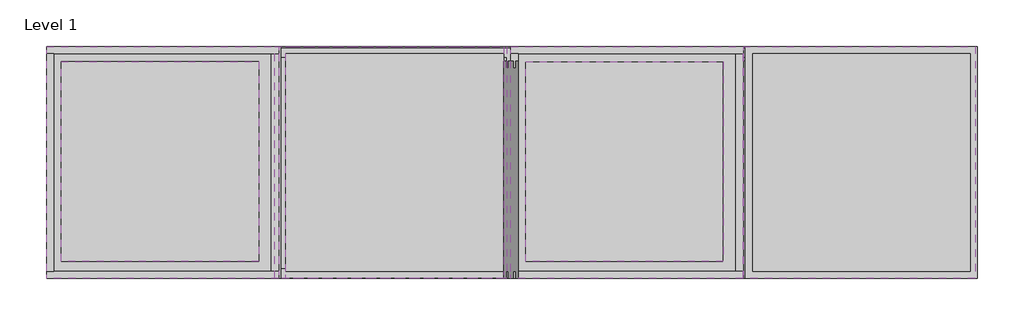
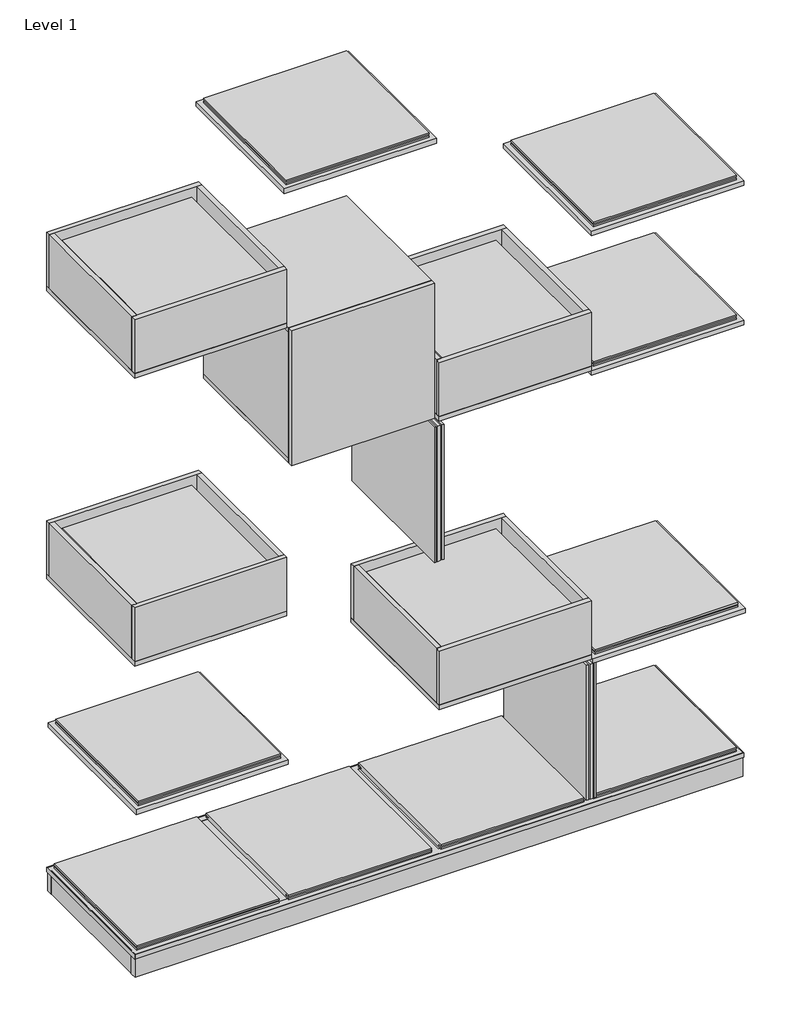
# One storey, incomplete: 14 furniture elements, 4 geographic elements.
"""IFC4 building model written with IfcOpenShell, lengths in millimetres."""

import ifcopenshell
import ifcopenshell.guid

model = None  # the IFC model being written
_history = None  # IfcOwnerHistory: only IFC2X3 demands one
_inside = {}  # id of a spatial element -> (the spatial element, [elements in it])
_under = {}  # id of a project, library or spatial element -> (it, [spatial elements below it])
_declared = {}  # id of a project -> (the project, [libraries it declares])
_typed = {}  # id of a type object -> (the type object, [elements of that type])
_made_of = {}  # id of a material, layer set ... -> (it, [elements and type objects made of it])


def new_model(schema):
    """Start an empty IFC model of exactly this schema.

    Asked for "IFC4X3", IfcOpenShell would pick the latest addendum, in which some entities
    have other attributes; the version numbers below select the first issue.
    IFC2X3 requires an IfcOwnerHistory on every rooted entity: one is made here for all.
    """
    global model, _history
    if schema == "IFC4X3":
        model = ifcopenshell.file(schema_version=(4, 3, 0, 0))
    else:
        model = ifcopenshell.file(schema=schema)
    _inside.clear()
    _under.clear()
    _declared.clear()
    _typed.clear()
    _made_of.clear()
    _history = None
    if model.schema == "IFC2X3":
        org = make("IfcOrganization", Name="unknown")
        user = make(
            "IfcPersonAndOrganization",
            ThePerson=make("IfcPerson", FamilyName="unknown"),
            TheOrganization=org,
        )
        app = make(
            "IfcApplication",
            ApplicationDeveloper=org,
            Version="unknown",
            ApplicationFullName="unknown",
            ApplicationIdentifier="unknown",
        )
        _history = make(
            "IfcOwnerHistory",
            OwningUser=user,
            OwningApplication=app,
            ChangeAction="ADDED",
            CreationDate=0,
        )
    return model


def make(cls, **values):
    """One entity of the class cls with the attributes given. An attribute that is None is left unset."""
    return model.create_entity(
        cls, **{name: value for name, value in values.items() if value is not None}
    )


def rooted(cls, **values):
    """An entity with a GlobalId (a new one), such as an element, a storey or a relation."""
    return make(cls, GlobalId=ifcopenshell.guid.new(), OwnerHistory=_history, **values)


def si_unit(unit_type, name, prefix=None):
    """IfcSIUnit, for example si_unit("LENGTHUNIT", "METRE", prefix="MILLI")."""
    return make("IfcSIUnit", UnitType=unit_type, Prefix=prefix, Name=name)


def assignment(units):
    """IfcUnitAssignment: the units of a project."""
    return None if units is None else make("IfcUnitAssignment", Units=units)


def point(xyz):
    """IfcCartesianPoint."""
    return None if xyz is None else make("IfcCartesianPoint", Coordinates=xyz)


def direction(xyz):
    """IfcDirection."""
    return None if xyz is None else make("IfcDirection", DirectionRatios=xyz)


def frame(location, z_axis=None, x_axis=None):
    """IfcAxis2Placement3D, a coordinate frame: its origin and axes. An axis left out is left unset."""
    return make(
        "IfcAxis2Placement3D",
        Location=point(location),
        Axis=direction(z_axis),
        RefDirection=direction(x_axis),
    )


def origin():
    """The frame at (0, 0, 0) with its axes left unset."""
    return frame((0.0, 0.0, 0.0))


def place(relative_to, where):
    """IfcLocalPlacement: puts the frame where relative to a parent placement (None: the world)."""
    return make(
        "IfcLocalPlacement", PlacementRelTo=relative_to, RelativePlacement=where
    )


def context(
    kind, dimensions, precision=None, world=None, true_north=None, identifier=None
):
    """IfcGeometricRepresentationContext, for example the 3D "Model" context."""
    return make(
        "IfcGeometricRepresentationContext",
        ContextIdentifier=identifier,
        ContextType=kind,
        CoordinateSpaceDimension=dimensions,
        Precision=precision,
        WorldCoordinateSystem=world,
        TrueNorth=true_north,
    )


def project(units=None, contexts=None):
    """IfcProject with its units and contexts."""
    return rooted(
        "IfcProject",
        Name="project",
        RepresentationContexts=contexts,
        UnitsInContext=assignment(units),
    )


def spatial(cls, under=None, at=None, **own):
    """A site, building, storey or space (cls), placed at a placement, below another one or the project."""
    s = rooted(cls, ObjectPlacement=at, **own)
    if under is not None:
        _under.setdefault(under.id(), (under, []))[1].append(s)
    return s


def polyline(points):
    """IfcPolyline through the points."""
    return make("IfcPolyline", Points=[point(p) for p in points])


def outline(outer, holes=None, kind="AREA"):
    """IfcArbitraryClosedProfileDef: a profile drawn as a closed curve; with holes, ...WithVoids."""
    if holes is None:
        return make("IfcArbitraryClosedProfileDef", ProfileType=kind, OuterCurve=outer)
    return make(
        "IfcArbitraryProfileDefWithVoids",
        ProfileType=kind,
        OuterCurve=outer,
        InnerCurves=holes,
    )


def extrude(swept, where, along, depth):
    """IfcExtrudedAreaSolid: the profile swept, set in the frame where, extruded along a direction by depth."""
    return make(
        "IfcExtrudedAreaSolid",
        SweptArea=swept,
        Position=where,
        ExtrudedDirection=direction(along),
        Depth=depth,
    )


def faces_of(points, faces, orient=None, outer=None):
    """IfcFace entities. A face is a list of loops; a loop is a list of indices into points, from 0.

    orient and outer hold one flag for each loop. By default every Orientation is true, the
    first loop of a face is its IfcFaceOuterBound and the others are IfcFaceBound.
    """
    made = []
    for i, loops in enumerate(faces):
        bounds = []
        for j, loop in enumerate(loops):
            is_outer = j == 0 if outer is None else outer[i][j]
            bounds.append(
                make(
                    "IfcFaceOuterBound" if is_outer else "IfcFaceBound",
                    Bound=make("IfcPolyLoop", Polygon=[points[k] for k in loop]),
                    Orientation=True if orient is None else orient[i][j],
                )
            )
        made.append(make("IfcFace", Bounds=bounds))
    return made


def faceted_brep(points, faces, orient=None, outer=None, voids=None):
    """IfcFacetedBrep: a solid bounded by flat faces; with voids (closed shells), ...WithVoids."""
    shared = [point(p) for p in points]
    hull = make("IfcClosedShell", CfsFaces=faces_of(shared, faces, orient, outer))
    if voids is None:
        return make("IfcFacetedBrep", Outer=hull)
    return make(
        "IfcFacetedBrepWithVoids",
        Outer=hull,
        Voids=[
            make(cls, CfsFaces=faces_of(shared, fs, o, b)) for cls, fs, o, b in voids
        ],
    )


def shape(context_of_items, identifier, shape_type, items):
    """IfcShapeRepresentation: the items that make up one representation, for example the "Body"."""
    return make(
        "IfcShapeRepresentation",
        ContextOfItems=context_of_items,
        RepresentationIdentifier=identifier,
        RepresentationType=shape_type,
        Items=items,
    )


def source(mapping_origin, context_of_items, identifier, shape_type, items):
    """IfcRepresentationMap: a shape defined once, which mapped items show again and again."""
    return make(
        "IfcRepresentationMap",
        MappingOrigin=mapping_origin,
        MappedRepresentation=shape(context_of_items, identifier, shape_type, items),
    )


def transform(
    local_origin,
    x_axis=None,
    y_axis=None,
    z_axis=None,
    scale=None,
    scale2=None,
    scale3=None,
    uniform=True,
):
    """IfcCartesianTransformationOperator3D, or its non-uniform kind. x_axis, y_axis, z_axis: its Axis1, 2, 3."""
    if uniform:
        return make(
            "IfcCartesianTransformationOperator3D",
            Axis1=direction(x_axis),
            Axis2=direction(y_axis),
            LocalOrigin=point(local_origin),
            Scale=scale,
            Axis3=direction(z_axis),
        )
    return make(
        "IfcCartesianTransformationOperator3DnonUniform",
        Axis1=direction(x_axis),
        Axis2=direction(y_axis),
        LocalOrigin=point(local_origin),
        Scale=scale,
        Axis3=direction(z_axis),
        Scale2=scale2,
        Scale3=scale3,
    )


def mapped(mapping_source, mapping_target):
    """IfcMappedItem: shows the shape of a source again, moved by a transform."""
    return make(
        "IfcMappedItem", MappingSource=mapping_source, MappingTarget=mapping_target
    )


def made_of(thing, what):
    """Note that an element or type object is made of a material, layer set ...; save() writes the relation."""
    if what is not None:
        _made_of.setdefault(what.id(), (what, []))[1].append(thing)
    return thing


def element(
    cls,
    number,
    at=None,
    inside=None,
    cuts=None,
    type_object=None,
    material=None,
    context=None,
    identifier="Body",
    shape_type=None,
    held_by="IfcProductDefinitionShape",
    body=None,
    shapes=None,
    **own,
):
    """One element of the class cls, such as IfcWall. Its Tag is "e" and its number.

    at: its placement. inside: the storey or other place that contains it. cuts: it is an
    opening in that element (IfcRelVoidsElement). A single representation is given by context,
    identifier, shape_type and body (its items); several are given by shapes. held_by: the class
    of the entity that holds the representations. save() writes the other relations.
    """
    e = rooted(cls, Tag="e%d" % number, ObjectPlacement=at, **own)
    if body is not None:
        shapes = [shape(context, identifier, shape_type, body)]
    if shapes is not None:
        e.Representation = make(held_by, Representations=shapes)
    if inside is not None:
        _inside.setdefault(inside.id(), (inside, []))[1].append(e)
    if cuts is not None:
        rooted(
            "IfcRelVoidsElement", RelatingBuildingElement=cuts, RelatedOpeningElement=e
        )
    if type_object is not None:
        _typed.setdefault(type_object.id(), (type_object, []))[1].append(e)
    return made_of(e, material)


def aggregate(whole, parts):
    """IfcRelAggregates: a whole, such as a stair, and the parts it consists of."""
    return rooted("IfcRelAggregates", RelatingObject=whole, RelatedObjects=parts)


def save(model, path):
    """Write the relations noted so far, then the file.

    IfcRelAggregates (storeys below a building ...), IfcRelContainedInSpatialStructure (elements
    in a storey), IfcRelDefinesByType, IfcRelAssociatesMaterial and IfcRelDeclares: one each for
    every whole, place, type object, material and project.
    """
    for whole, parts in _under.values():
        aggregate(whole, parts)
    for where, things in _inside.values():
        rooted(
            "IfcRelContainedInSpatialStructure",
            RelatedElements=things,
            RelatingStructure=where,
        )
    for kind, things in _typed.values():
        rooted("IfcRelDefinesByType", RelatedObjects=things, RelatingType=kind)
    for what, things in _made_of.values():
        rooted("IfcRelAssociatesMaterial", RelatedObjects=things, RelatingMaterial=what)
    for by, libraries in _declared.values():
        rooted("IfcRelDeclares", RelatingContext=by, RelatedDefinitions=libraries)
    model.write(path)


def furniture_shelving_storage_grid_cupboard_insert_side_left_8271136d(model_context):
    return source(origin(), model_context, "Body", "SweptSolid", [
        extrude(outline(polyline([(188.0003625, -185.4994641), (-187.9996375, -185.4994641), (-187.9996375, 203.0005359), (188.0003625, 203.0005359), (188.0003625, -185.4994641)])), frame((0.0, 0.0, 375.9997903), z_axis=(0.0, 0.0, 1.0), x_axis=(1.0, 0.0, 0.0)), (0.0, 0.0, 1.0), 12.5),
        extrude(outline(polyline([(-187.9996375, -185.4994641), (-187.9996375, 203.0005359), (-175.4996375, 203.0005359), (-175.4996375, -185.4994641), (-187.9996375, -185.4994641)])), frame((0.0, 0.0, 24.9997903), z_axis=(0.0, 0.0, 1.0), x_axis=(1.0, 0.0, 0.0)), (0.0, 0.0, 1.0), 351.0),
        extrude(outline(polyline([(175.5003625, -185.4994641), (175.5003625, 203.0005359), (188.0003625, 203.0005359), (188.0003625, -185.4994641), (175.5003625, -185.4994641)])), frame((0.0, 0.0, 24.9997903), z_axis=(0.0, 0.0, 1.0), x_axis=(1.0, 0.0, 0.0)), (0.0, 0.0, 1.0), 351.0),
        extrude(outline(polyline([(188.0003625, 203.0005359), (-187.9996375, 203.0005359), (-187.9996375, 215.5005359), (188.0003625, 215.5005359), (188.0003625, 203.0005359)])), frame((0.0, 0.0, 12.4997903), z_axis=(0.0, 0.0, 1.0), x_axis=(1.0, 0.0, 0.0)), (0.0, 0.0, 1.0), 376.0),
        extrude(outline(polyline([(188.0003625, -185.4994641), (-187.9996375, -185.4994641), (-187.9996375, 203.0005359), (188.0003625, 203.0005359), (188.0003625, -185.4994641)])), frame((0.0, 0.0, 12.4997903), z_axis=(0.0, 0.0, 1.0), x_axis=(1.0, 0.0, 0.0)), (0.0, 0.0, 1.0), 12.5),
    ])


def furniture_shelving_storage_grid_double_side_colour_black_ral_d8258e37(model_context):
    return source(origin(), model_context, "Body", "Brep", [
        faceted_brep([(8.2495759, -175.9999642, 24.5), (4.2495759, -175.9999642, 24.5), (4.2495759, 176.0000358, 24.5), (8.2495759, 176.0000358, 24.5), (4.2495759, -187.9999642, 12.5), (4.2495759, 188.0000358, 12.5), (4.2495759, 188.0000358, 388.5), (4.2495759, -187.9999642, 388.5), (4.2495759, -175.9999642, 376.5), (4.2495759, 176.0000358, 376.5), (8.2495759, 188.0000358, 12.5), (12.4995759, 188.0000358, 12.5), (12.4995759, -187.9999642, 12.5), (8.2495759, -187.9999642, 12.5), (8.2495759, -175.9999642, 376.5), (8.2495759, 176.0000358, 376.5), (12.4995759, -187.9999642, 388.5), (8.2495759, -187.9999642, 388.5), (12.4995759, 188.0000358, 388.5), (8.2495759, 188.0000358, 388.5), (-4.2504241, -175.9999642, 24.5), (-8.2504241, -175.9999642, 24.5), (-8.2504241, 176.0000358, 24.5), (-4.2504241, 176.0000358, 24.5), (-8.2504241, -187.9999642, 12.5), (-8.2504241, 188.0000358, 12.5), (-8.2504241, 188.0000358, 388.5), (-8.2504241, -187.9999642, 388.5), (-8.2504241, -175.9999642, 376.5), (-8.2504241, 176.0000358, 376.5), (-4.2504241, 188.0000358, 12.5), (-4.2504241, -187.9999642, 12.5), (-4.2504241, -175.9999642, 376.5), (-4.2504241, 176.0000358, 376.5), (-4.2504241, -187.9999642, 388.5), (-4.2504241, 188.0000358, 388.5), (-12.5004241, -187.9999642, 12.5), (-12.5004241, 188.0000358, 12.5), (-12.5004241, -187.9999642, 388.5), (-12.5004241, 188.0000358, 388.5)], [[[0, 1, 2, 3]], [[4, 5, 6, 7], [8, 9, 2, 1]], [[10, 11, 12, 13]], [[1, 0, 14, 8]], [[8, 14, 15, 9]], [[13, 12, 16, 17]], [[3, 2, 9, 15]], [[17, 16, 18, 19]], [[10, 13, 17, 19], [14, 0, 3, 15]], [[19, 18, 11, 10]], [[16, 12, 11, 18]], [[20, 21, 22, 23]], [[24, 25, 26, 27], [28, 29, 22, 21]], [[30, 5, 4, 31]], [[21, 20, 32, 28]], [[28, 32, 33, 29]], [[31, 4, 7, 34]], [[23, 22, 29, 33]], [[34, 7, 6, 35]], [[30, 31, 34, 35], [32, 20, 23, 33]], [[24, 36, 37, 25]], [[35, 6, 5, 30]], [[38, 39, 37, 36]], [[25, 37, 39, 26]], [[27, 38, 36, 24]], [[26, 39, 38, 27]]]),
    ])


def furniture_shelving_storage_grid_plinth_type_1x4_colour_black_6eff8f26(model_context):
    return source(origin(), model_context, "Body", "SweptSolid", [
        extrude(outline(polyline([(-197.4999086, -182.4999649), (-197.4999086, 182.5000351), (-198.4999086, 182.5000351), (-198.4999086, 198.5000351), (1401.5000914, 198.5000351), (1401.5000914, 182.5000351), (1400.5000914, 182.5000351), (1400.5000914, -182.4999649), (1401.5000914, -182.4999649), (1401.5000914, -198.4999649), (-198.4999086, -198.4999649), (-198.4999086, -182.4999649), (-197.4999086, -182.4999649)]), holes=[polyline([(593.5000914, -182.4999649), (593.5000914, 182.5000351), (-181.4999086, 182.5000351), (-181.4999086, -182.4999649), (593.5000914, -182.4999649)]), polyline([(609.5000914, -182.4999649), (1384.5000914, -182.4999649), (1384.5000914, 182.5000351), (609.5000914, 182.5000351), (609.5000914, -182.4999649)])]), frame((0.0, 0.0, -65.0), z_axis=(0.0, 0.0, 1.0), x_axis=(1.0, 0.0, 0.0)), (0.0, 0.0, 1.0), 65.0),
    ])


def furniture_shelving_storage_grid_top_base_panel_size_and_cf4f366d(model_context):
    return source(origin(), model_context, "Body", "Brep", [
        faceted_brep([(200.499622, -200.4995459, 13.0), (200.499622, 200.5004541, 13.0), (-200.500378, 200.5004541, 13.0), (-200.500378, -200.4995459, 13.0), (187.999622, -187.9995459, 13.0), (-188.000378, -187.9995459, 13.0), (-188.000378, 188.0004541, 13.0), (187.999622, 188.0004541, 13.0), (200.499622, -200.4995459, 0.0), (-200.500378, -200.4995459, 0.0), (-200.500378, 200.5004541, 0.0), (200.499622, 200.5004541, 0.0), (-176.000378, -175.9995459, 17.25), (-176.000378, -175.9995459, 21.25), (-176.000378, 176.0004541, 21.25), (-176.000378, 176.0004541, 17.25), (-188.000378, -187.9995459, 21.25), (-188.000378, 188.0004541, 21.25), (187.999622, 188.0004541, 21.25), (187.999622, -187.9995459, 21.25), (175.999622, -175.9995459, 21.25), (175.999622, 176.0004541, 21.25), (-188.000378, 188.0004541, 17.25), (-188.000378, -187.9995459, 17.25), (175.999622, -175.9995459, 17.25), (175.999622, 176.0004541, 17.25), (187.999622, -187.9995459, 17.25), (187.999622, 188.0004541, 17.25), (-188.000378, -187.9995459, 25.5), (-188.000378, 188.0004541, 25.5), (187.999622, -187.9995459, 25.5), (187.999622, 188.0004541, 25.5)], [[[0, 1, 2, 3], [4, 5, 6, 7]], [[8, 9, 10, 11]], [[9, 8, 0, 3]], [[10, 9, 3, 2]], [[11, 10, 2, 1]], [[8, 11, 1, 0]], [[12, 13, 14, 15]], [[16, 17, 18, 19], [20, 21, 14, 13]], [[22, 6, 5, 23]], [[13, 12, 24, 20]], [[20, 24, 25, 21]], [[23, 5, 4, 26]], [[15, 14, 21, 25]], [[26, 4, 7, 27]], [[22, 23, 26, 27], [24, 12, 15, 25]], [[16, 28, 29, 17]], [[27, 7, 6, 22]], [[30, 31, 29, 28]], [[17, 29, 31, 18]], [[19, 30, 28, 16]], [[18, 31, 30, 19]]]),
    ])


def furniture_shelving_storage_grid_top_base_panel_size_and_bb9ed435(model_context):
    return source(origin(), model_context, "Body", "Brep", [
        faceted_brep([(212.999622, 176.0004541, 17.25), (588.999622, 176.0004541, 17.25), (588.999622, 188.0004541, 17.25), (212.999622, 188.0004541, 17.25), (212.999622, 176.0004541, 21.25), (212.999622, 188.0004541, 21.25), (588.999622, 188.0004541, 21.25), (588.999622, 176.0004541, 21.25), (613.999622, 176.0004541, 21.25), (613.999622, 188.0004541, 21.25), (989.999622, 188.0004541, 21.25), (989.999622, 176.0004541, 21.25), (989.999622, -175.9995459, 21.25), (989.999622, -187.9995459, 21.25), (613.999622, -187.9995459, 21.25), (613.999622, -175.9995459, 21.25), (613.999622, 176.0004541, 17.25), (989.999622, 176.0004541, 17.25), (989.999622, 188.0004541, 17.25), (613.999622, 188.0004541, 17.25), (989.999622, -175.9995459, 17.25), (613.999622, -175.9995459, 17.25), (613.999622, -187.9995459, 17.25), (989.999622, -187.9995459, 17.25), (588.999622, -175.9995459, 17.25), (212.999622, -175.9995459, 17.25), (212.999622, -187.9995459, 17.25), (588.999622, -187.9995459, 17.25), (588.999622, -175.9995459, 21.25), (588.999622, -187.9995459, 21.25), (212.999622, -187.9995459, 21.25), (212.999622, -175.9995459, 21.25), (1378.999622, -175.9995459, 21.25), (1378.999622, 176.0004541, 21.25), (1014.999622, 176.0004541, 21.25), (1014.999622, 188.0004541, 21.25), (1390.999622, 188.0004541, 21.25), (1390.999622, -187.9995459, 21.25), (1014.999622, -187.9995459, 21.25), (1014.999622, -175.9995459, 21.25), (1378.999622, -175.9995459, 17.25), (1014.999622, -175.9995459, 17.25), (1014.999622, -187.9995459, 17.25), (1390.999622, -187.9995459, 17.25), (1390.999622, 188.0004541, 17.25), (1014.999622, 188.0004541, 17.25), (1014.999622, 176.0004541, 17.25), (1378.999622, 176.0004541, 17.25), (1403.499622, 200.5004541, 13.0), (1403.499622, -200.4995459, 13.0), (1403.499622, -200.4995459, 0.0), (1403.499622, 200.5004541, 0.0), (1390.999622, -187.9995459, 13.0), (1390.999622, 188.0004541, 13.0), (1390.999622, 188.0004541, 25.5), (1390.999622, -187.9995459, 25.5), (1014.999622, -187.9995459, 13.0), (1014.999622, -187.9995459, 25.5), (1014.999622, 188.0004541, 13.0), (1014.999622, 188.0004541, 25.5), (989.999622, 188.0004541, 25.5), (989.999622, -187.9995459, 25.5), (989.999622, -187.9995459, 13.0), (989.999622, 188.0004541, 13.0), (613.999622, -187.9995459, 13.0), (613.999622, -187.9995459, 25.5), (613.999622, 188.0004541, 13.0), (613.999622, 188.0004541, 25.5), (212.999622, -187.9995459, 25.5), (212.999622, 188.0004541, 25.5), (212.999622, 188.0004541, 13.0), (212.999622, -187.9995459, 13.0), (588.999622, -187.9995459, 13.0), (588.999622, 188.0004541, 25.5), (588.999622, -187.9995459, 25.5), (588.999622, 188.0004541, 13.0), (187.999622, -175.9995459, 17.25), (-176.000378, -175.9995459, 17.25), (-176.000378, 176.0004541, 17.25), (187.999622, 176.0004541, 17.25), (187.999622, 188.0004541, 17.25), (-188.000378, 188.0004541, 17.25), (-188.000378, -187.9995459, 17.25), (187.999622, -187.9995459, 17.25), (187.999622, -175.9995459, 21.25), (187.999622, -187.9995459, 21.25), (-188.000378, -187.9995459, 21.25), (-188.000378, 188.0004541, 21.25), (187.999622, 188.0004541, 21.25), (187.999622, 176.0004541, 21.25), (-176.000378, 176.0004541, 21.25), (-176.000378, -175.9995459, 21.25), (-200.500378, 200.5004541, 13.0), (-200.500378, -200.4995459, 13.0), (187.999622, -187.9995459, 13.0), (-188.000378, -187.9995459, 13.0), (-188.000378, 188.0004541, 13.0), (187.999622, 188.0004541, 13.0), (-200.500378, -200.4995459, 0.0), (-200.500378, 200.5004541, 0.0), (187.999622, 188.0004541, 25.5), (187.999622, -187.9995459, 25.5), (-188.000378, -187.9995459, 25.5), (-188.000378, 188.0004541, 25.5)], [[[0, 1, 2, 3]], [[4, 5, 6, 7]], [[8, 9, 10, 11]], [[12, 13, 14, 15]], [[16, 17, 18, 19]], [[20, 21, 22, 23]], [[24, 25, 26, 27]], [[28, 29, 30, 31]], [[32, 33, 34, 35, 36, 37, 38, 39]], [[40, 41, 42, 43, 44, 45, 46, 47]], [[48, 49, 50, 51]], [[32, 40, 47, 33]], [[33, 47, 46, 34]], [[43, 52, 53, 44]], [[36, 54, 55, 37]], [[40, 32, 39, 41]], [[42, 56, 52, 43]], [[37, 55, 57, 38]], [[34, 46, 45, 58, 56, 42, 41, 39, 38, 57, 59, 35]], [[44, 53, 58, 45]], [[59, 57, 55, 54]], [[35, 59, 54, 36]], [[17, 16, 8, 11]], [[17, 11, 10, 60, 61, 13, 12, 20, 23, 62, 63, 18]], [[12, 15, 21, 20]], [[22, 64, 62, 23]], [[13, 61, 65, 14]], [[8, 16, 19, 66, 64, 22, 21, 15, 14, 65, 67, 9]], [[18, 63, 66, 19]], [[67, 65, 61, 60]], [[9, 67, 60, 10]], [[25, 31, 30, 68, 69, 5, 4, 0, 3, 70, 71, 26]], [[25, 24, 28, 31]], [[26, 71, 72, 27]], [[4, 7, 1, 0]], [[1, 7, 6, 73, 74, 29, 28, 24, 27, 72, 75, 2]], [[2, 75, 70, 3]], [[74, 73, 69, 68]], [[5, 69, 73, 6]], [[29, 74, 68, 30]], [[76, 77, 78, 79, 80, 81, 82, 83]], [[84, 85, 86, 87, 88, 89, 90, 91]], [[49, 48, 92, 93], [53, 52, 56, 58], [66, 63, 62, 64], [72, 71, 70, 75], [94, 95, 96, 97]], [[98, 99, 51, 50]], [[98, 50, 49, 93]], [[99, 98, 93, 92]], [[99, 92, 48, 51]], [[77, 91, 90, 78]], [[81, 96, 95, 82]], [[91, 77, 76, 84]], [[82, 95, 94, 83]], [[78, 90, 89, 79]], [[79, 89, 88, 100, 101, 85, 84, 76, 83, 94, 97, 80]], [[86, 102, 103, 87]], [[80, 97, 96, 81]], [[101, 100, 103, 102]], [[87, 103, 100, 88]], [[85, 101, 102, 86]]]),
    ])


def furniture_shelving_storage_grid_top_box_colour_oak_e10ae7cb(model_context):
    return source(origin(), model_context, "Body", "SweptSolid", [
        extrude(outline(polyline([(200.5052314, -200.4947686), (-200.4947686, -200.4947686), (-200.4947686, 200.5052314), (200.5052314, 200.5052314), (200.5052314, -200.4947686)])), frame((0.0, 0.0, 401.0), z_axis=(0.0, 0.0, 1.0), x_axis=(1.0, 0.0, 0.0)), (0.0, 0.0, 1.0), 12.5),
        extrude(outline(polyline([(-200.4947686, -187.9947686), (-200.4947686, 188.0052314), (-187.9947686, 188.0052314), (-187.9947686, -187.9947686), (-200.4947686, -187.9947686)])), frame((0.0, 0.0, 413.5), z_axis=(0.0, 0.0, 1.0), x_axis=(1.0, 0.0, 0.0)), (0.0, 0.0, 1.0), 150.0),
        extrude(outline(polyline([(-200.4947686, 188.0052314), (-200.4947686, 200.5052314), (200.5052314, 200.5052314), (200.5052314, 188.0052314), (-200.4947686, 188.0052314)])), frame((0.0, 0.0, 413.5), z_axis=(0.0, 0.0, 1.0), x_axis=(1.0, 0.0, 0.0)), (0.0, 0.0, 1.0), 150.0),
        extrude(outline(polyline([(200.5052314, -187.9947686), (200.5052314, -200.4947686), (-200.4947686, -200.4947686), (-200.4947686, -187.9947686), (200.5052314, -187.9947686)])), frame((0.0, 0.0, 413.5), z_axis=(0.0, 0.0, 1.0), x_axis=(1.0, 0.0, 0.0)), (0.0, 0.0, 1.0), 150.0),
        extrude(outline(polyline([(188.0052314, -187.9947686), (188.0052314, 188.0052314), (200.5052314, 188.0052314), (200.5052314, -187.9947686), (188.0052314, -187.9947686)])), frame((0.0, 0.0, 413.5), z_axis=(0.0, 0.0, 1.0), x_axis=(1.0, 0.0, 0.0)), (0.0, 0.0, 1.0), 150.0),
    ])


def only_plant_only_plant_8fcf59e9(model_context):
    return source(origin(), model_context, "Body", "SweptSolid", [
        extrude(outline(polyline([(176.0, 177.9567899), (176.0, -167.0432101), (-164.9599787, -167.0432101), (-164.9599787, 177.9567899), (176.0, 177.9567899)])), frame((0.0, 0.0, 55.75), z_axis=(0.0, 0.0, 1.0), x_axis=(1.0, 0.0, 0.0)), (0.0, 0.0, 1.0), 92.0653484),
    ])


model = new_model("IFC4")

# Units and contexts
model_context = context("Model", 3, world=origin())
ifc_project = project(units=[si_unit("LENGTHUNIT", "METRE", prefix="MILLI")], contexts=[model_context])

# Site, building, storey
site = spatial("IfcSite", under=ifc_project)
building = spatial("IfcBuilding", under=site)
storey = spatial("IfcBuildingStorey", under=building, Name="Level 1", Elevation=0.0)

# Furniture
placement = place(None, origin())
furniture_shelving_storage_grid_cupboard_insert_side_left_shape = furniture_shelving_storage_grid_cupboard_insert_side_left_8271136d(model_context)
element("IfcFurniture", 1, ObjectType="Furniture_Shelving-Storage_Grid_Cupboard-insert : Side - (Left) Colour - (White RAL 9016) 2", at=placement, inside=storey, context=model_context, shape_type="MappedRepresentation", body=[
    mapped(furniture_shelving_storage_grid_cupboard_insert_side_left_shape, transform((738.9220252, 215.5005361, 1281.0094794), x_axis=(-1.0, 0.0, 0.0), y_axis=(0.0, -1.0, 0.0), z_axis=(0.0, 0.0, 1.0))),
])
furniture_shelving_storage_grid_double_side_colour_black_ral_shape = furniture_shelving_storage_grid_double_side_colour_black_ral_d8258e37(model_context)
element("IfcFurniture", 2, ObjectType="Furniture_Shelving-Storage_Grid_Double-Side : Colour - (Black RAL 9011)", at=placement, inside=storey, context=model_context, shape_type="MappedRepresentation", body=[
    mapped(furniture_shelving_storage_grid_double_side_colour_black_ral_shape, transform((1340.4224237, 187.9998998, 77.8092697), x_axis=(1.0, 0.0, 0.0), y_axis=(0.0, 1.0, 0.0), z_axis=(0.0, 0.0, 1.0))),
])
element("IfcFurniture", 3, ObjectType="Furniture_Shelving-Storage_Grid_Double-Side : Colour - (Black RAL 9011)", at=placement, inside=storey, context=model_context, shape_type="MappedRepresentation", body=[
    mapped(furniture_shelving_storage_grid_double_side_colour_black_ral_shape, transform((939.4224237, 187.9998998, 879.8092697), x_axis=(1.0, 0.0, 0.0), y_axis=(0.0, 1.0, 0.0), z_axis=(0.0, 0.0, 1.0))),
])
furniture_shelving_storage_grid_plinth_type_1x4_colour_black_shape = furniture_shelving_storage_grid_plinth_type_1x4_colour_black_6eff8f26(model_context)
element("IfcFurniture", 4, ObjectType="Furniture_Shelving-Storage_Grid_Plinth : Type - (1x4) Colour - (Black RAL 9011)", at=placement, inside=storey, context=model_context, shape_type="MappedRepresentation", body=[
    mapped(furniture_shelving_storage_grid_plinth_type_1x4_colour_black_shape, transform((337.9218447, 199.7750002, 78.0092697), x_axis=(1.0, 0.0, 0.0), y_axis=(0.0, 1.0, 0.0), z_axis=(0.0, 0.0, 1.0))),
])
furniture_shelving_storage_grid_top_base_panel_size_and_shape = furniture_shelving_storage_grid_top_base_panel_size_and_cf4f366d(model_context)
element("IfcFurniture", 5, ObjectType="Furniture_Shelving-Storage_Grid_Top-Base-Panel : Size and color - (1x1 Black RAL 9011)", at=placement, inside=storey, context=model_context, shape_type="MappedRepresentation", body=[
    mapped(furniture_shelving_storage_grid_top_base_panel_size_and_shape, transform((1540.9224032, 200.4995461, 1268.5092697), x_axis=(1.0, 0.0, 0.0), y_axis=(0.0, 1.0, 0.0), z_axis=(0.0, 0.0, 1.0))),
])
element("IfcFurniture", 6, ObjectType="Furniture_Shelving-Storage_Grid_Top-Base-Panel : Size and color - (1x1 Black RAL 9011)", at=placement, inside=storey, context=model_context, shape_type="MappedRepresentation", body=[
    mapped(furniture_shelving_storage_grid_top_base_panel_size_and_shape, transform((1540.9224032, 200.4995461, 1656.5092697), x_axis=(1.0, 0.0, 0.0), y_axis=(0.0, 1.0, 0.0), z_axis=(0.0, 0.0, 1.0))),
])
element("IfcFurniture", 7, ObjectType="Furniture_Shelving-Storage_Grid_Top-Base-Panel : Size and color - (1x1 Black RAL 9011)", at=placement, inside=storey, context=model_context, shape_type="MappedRepresentation", body=[
    mapped(furniture_shelving_storage_grid_top_base_panel_size_and_shape, transform((1544.8911276, 200.4995461, 466.0092697), x_axis=(1.0, 0.0, 0.0), y_axis=(0.0, 1.0, 0.0), z_axis=(0.0, 0.0, 1.0))),
])
element("IfcFurniture", 8, ObjectType="Furniture_Shelving-Storage_Grid_Top-Base-Panel : Size and color - (1x1 Black RAL 9011)", at=placement, inside=storey, context=model_context, shape_type="MappedRepresentation", body=[
    mapped(furniture_shelving_storage_grid_top_base_panel_size_and_shape, transform((341.8911276, 200.4995461, 466.0092697), x_axis=(1.0, 0.0, 0.0), y_axis=(0.0, 1.0, 0.0), z_axis=(0.0, 0.0, 1.0))),
])
element("IfcFurniture", 9, ObjectType="Furniture_Shelving-Storage_Grid_Top-Base-Panel : Size and color - (1x1 Black RAL 9011)", at=placement, inside=storey, context=model_context, shape_type="MappedRepresentation", body=[
    mapped(furniture_shelving_storage_grid_top_base_panel_size_and_shape, transform((732.0245971, 200.4995461, 2057.3461075), x_axis=(1.0, 0.0, 0.0), y_axis=(0.0, 1.0, 0.0), z_axis=(0.0, 0.0, 1.0))),
])
furniture_shelving_storage_grid_top_base_panel_size_and_2_shape = furniture_shelving_storage_grid_top_base_panel_size_and_bb9ed435(model_context)
element("IfcFurniture", 10, ObjectType="Furniture_Shelving-Storage_Grid_Top-Base-Panel : Size and color - (1x4 Black RAL 9011)", at=placement, inside=storey, context=model_context, shape_type="MappedRepresentation", body=[
    mapped(furniture_shelving_storage_grid_top_base_panel_size_and_2_shape, transform((1540.9216216, 200.5004543, 65.0092697), x_axis=(-1.0, 0.0, 0.0), y_axis=(0.0, -1.0, 0.0), z_axis=(0.0, 0.0, 1.0))),
])
furniture_shelving_storage_grid_top_box_colour_oak_shape = furniture_shelving_storage_grid_top_box_colour_oak_e10ae7cb(model_context)
element("IfcFurniture", 11, ObjectType="Furniture_Shelving-Storage_Grid_Top-Box : Colour - (Oak)", at=placement, inside=storey, context=model_context, shape_type="MappedRepresentation", body=[
    mapped(furniture_shelving_storage_grid_top_box_colour_oak_shape, transform((337.9168197, 200.5000002, 479.0092698), x_axis=(1.0, 0.0, 0.0), y_axis=(0.0, 1.0, 0.0), z_axis=(0.0, 0.0, 1.0))),
])
element("IfcFurniture", 12, ObjectType="Furniture_Shelving-Storage_Grid_Top-Box : Colour - (Oak)", at=placement, inside=storey, context=model_context, shape_type="MappedRepresentation", body=[
    mapped(furniture_shelving_storage_grid_top_box_colour_oak_shape, transform((1140.1167938, 200.5000002, 880.5092698), x_axis=(1.0, 0.0, 0.0), y_axis=(0.0, 1.0, 0.0), z_axis=(0.0, 0.0, 1.0))),
])
element("IfcFurniture", 13, ObjectType="Furniture_Shelving-Storage_Grid_Top-Box : Colour - (Oak)", at=placement, inside=storey, context=model_context, shape_type="MappedRepresentation", body=[
    mapped(furniture_shelving_storage_grid_top_box_colour_oak_shape, transform((1139.9168197, 200.5000002, 78.0092698), x_axis=(1.0, 0.0, 0.0), y_axis=(0.0, 1.0, 0.0), z_axis=(0.0, 0.0, 1.0))),
])
element("IfcFurniture", 14, ObjectType="Furniture_Shelving-Storage_Grid_Top-Box : Colour - (Oak)", at=placement, inside=storey, context=model_context, shape_type="MappedRepresentation", body=[
    mapped(furniture_shelving_storage_grid_top_box_colour_oak_shape, transform((337.9167938, 200.5000002, 1281.0092698), x_axis=(1.0, 0.0, 0.0), y_axis=(0.0, 1.0, 0.0), z_axis=(0.0, 0.0, 1.0))),
])

# Geographic elements
only_plant_only_plant_shape = only_plant_only_plant_8fcf59e9(model_context)
element("IfcGeographicElement", 15, ObjectType="Only Plant : Only Plant", at=placement, inside=storey, context=model_context, shape_type="MappedRepresentation", body=[
    mapped(only_plant_only_plant_shape, transform((327.822051, 196.6000002, 880.2092698), x_axis=(1.0, 0.0, 0.0), y_axis=(0.0, 1.0, 0.0), z_axis=(0.0, 0.0, 1.0))),
])
element("IfcGeographicElement", 16, ObjectType="Only Plant : Only Plant", at=placement, inside=storey, context=model_context, shape_type="MappedRepresentation", body=[
    mapped(only_plant_only_plant_shape, transform((1130.0220252, 196.6000002, 1281.7092697), x_axis=(1.0, 0.0, 0.0), y_axis=(0.0, 1.0, 0.0), z_axis=(0.0, 0.0, 1.0))),
])
element("IfcGeographicElement", 17, ObjectType="Only Plant : Only Plant", at=placement, inside=storey, context=model_context, shape_type="MappedRepresentation", body=[
    mapped(only_plant_only_plant_shape, transform((1129.822051, 196.6000002, 479.2092698), x_axis=(1.0, 0.0, 0.0), y_axis=(0.0, 1.0, 0.0), z_axis=(0.0, 0.0, 1.0))),
])
element("IfcGeographicElement", 18, ObjectType="Only Plant : Only Plant", at=placement, inside=storey, context=model_context, shape_type="MappedRepresentation", body=[
    mapped(only_plant_only_plant_shape, transform((327.8220252, 196.6000002, 1682.2092697), x_axis=(1.0, 0.0, 0.0), y_axis=(0.0, 1.0, 0.0), z_axis=(0.0, 0.0, 1.0))),
])

save(model, "model.ifc")
